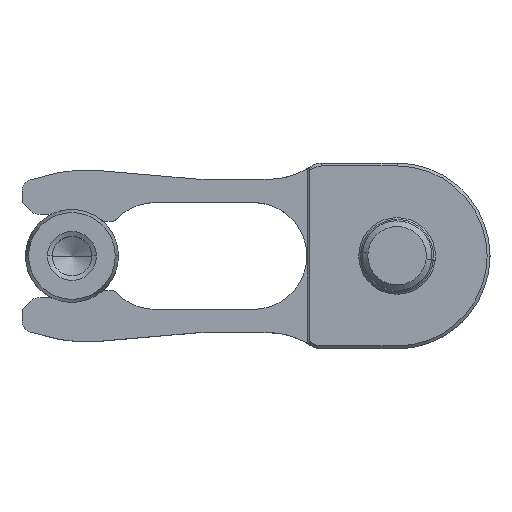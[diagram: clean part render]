
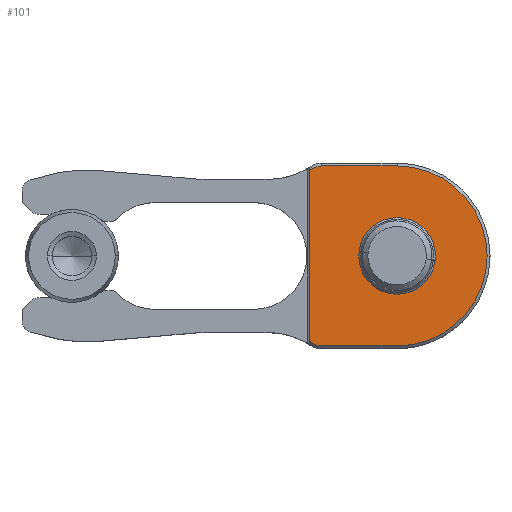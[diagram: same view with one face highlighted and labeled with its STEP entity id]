
A CAD part, top view. The second image highlights one B-rep face of the part: STEP entity #101.
In plain terms, the highlighted planar face has unit normal (0, 0, 1).
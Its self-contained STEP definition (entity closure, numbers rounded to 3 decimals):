
#43 = CARTESIAN_POINT ( 'NONE',  ( 0., -15.5, 5.85 ) ) ;
#60 = AXIS2_PLACEMENT_3D ( 'NONE', #1511, #202, #2271 ) ;
#73 = EDGE_CURVE ( 'NONE', #2920, #2684, #2914, .T. ) ;
#101 = ADVANCED_FACE ( 'NONE', ( #979, #843 ), #548, .T. ) ;
#179 = DIRECTION ( 'NONE',  ( -1., 0., 0. ) ) ;
#187 = CIRCLE ( 'NONE', #3278, 6.6 ) ;
#193 = VECTOR ( 'NONE', #179, 1000. ) ;
#202 = DIRECTION ( 'NONE',  ( 0., 0., -1. ) ) ;
#301 = EDGE_CURVE ( 'NONE', #1133, #2229, #1177, .T. ) ;
#387 = DIRECTION ( 'NONE',  ( 0., 0., -1. ) ) ;
#399 = DIRECTION ( 'NONE',  ( 0., 0., -1. ) ) ;
#427 = DIRECTION ( 'NONE',  ( 1., 0., 0. ) ) ;
#440 = CARTESIAN_POINT ( 'NONE',  ( 6.6, 0., 5.85 ) ) ;
#548 = PLANE ( 'NONE',  #1547 ) ;
#550 = DIRECTION ( 'NONE',  ( 1., 0., 0. ) ) ;
#586 = CARTESIAN_POINT ( 'NONE',  ( 0., -15.5, 5.85 ) ) ;
#645 = ORIENTED_EDGE ( 'NONE', *, *, #1765, .T. ) ;
#654 = CARTESIAN_POINT ( 'NONE',  ( -13., 15.5, 5.85 ) ) ;
#663 = CARTESIAN_POINT ( 'NONE',  ( 0., 0., 5.85 ) ) ;
#737 = CARTESIAN_POINT ( 'NONE',  ( -22.226, -26.5, 5.85 ) ) ;
#744 = EDGE_CURVE ( 'NONE', #3198, #2920, #3032, .T. ) ;
#788 = CARTESIAN_POINT ( 'NONE',  ( -13., 12.7, 5.85 ) ) ;
#843 = FACE_BOUND ( 'NONE', #1704, .T. ) ;
#945 = EDGE_CURVE ( 'NONE', #1168, #3198, #3187, .T. ) ;
#960 = ORIENTED_EDGE ( 'NONE', *, *, #1164, .T. ) ;
#979 = FACE_OUTER_BOUND ( 'NONE', #1762, .T. ) ;
#1045 = CIRCLE ( 'NONE', #1481, 13.8 ) ;
#1111 = DIRECTION ( 'NONE',  ( 1., 0., 0. ) ) ;
#1133 = VERTEX_POINT ( 'NONE', #1909 ) ;
#1144 = CARTESIAN_POINT ( 'NONE',  ( -14.556, -15.028, 5.85 ) ) ;
#1157 = AXIS2_PLACEMENT_3D ( 'NONE', #2446, #399, #1436 ) ;
#1164 = EDGE_CURVE ( 'NONE', #1779, #1804, #1628, .T. ) ;
#1168 = VERTEX_POINT ( 'NONE', #1144 ) ;
#1177 = LINE ( 'NONE', #2587, #1249 ) ;
#1203 = ORIENTED_EDGE ( 'NONE', *, *, #2342, .T. ) ;
#1232 = CARTESIAN_POINT ( 'NONE',  ( -6.6, 0., 5.85 ) ) ;
#1249 = VECTOR ( 'NONE', #2822, 1000. ) ;
#1395 = AXIS2_PLACEMENT_3D ( 'NONE', #3085, #2540, #1554 ) ;
#1436 = DIRECTION ( 'NONE',  ( -1., 0., 0. ) ) ;
#1449 = DIRECTION ( 'NONE',  ( -1., 0., 0. ) ) ;
#1466 = VECTOR ( 'NONE', #1111, 1000. ) ;
#1481 = AXIS2_PLACEMENT_3D ( 'NONE', #737, #2813, #2274 ) ;
#1511 = CARTESIAN_POINT ( 'NONE',  ( -22.226, 26.5, 5.85 ) ) ;
#1547 = AXIS2_PLACEMENT_3D ( 'NONE', #663, #1736, #2975 ) ;
#1554 = DIRECTION ( 'NONE',  ( 1., 0., 0. ) ) ;
#1587 = ORIENTED_EDGE ( 'NONE', *, *, #2046, .T. ) ;
#1628 = CIRCLE ( 'NONE', #1157, 6.6 ) ;
#1704 = EDGE_LOOP ( 'NONE', ( #960, #1203 ) ) ;
#1736 = DIRECTION ( 'NONE',  ( 0., 0., 1. ) ) ;
#1762 = EDGE_LOOP ( 'NONE', ( #3108, #1883, #2408, #2496, #2394, #645, #1587, #3068 ) ) ;
#1765 = EDGE_CURVE ( 'NONE', #2684, #3092, #2709, .T. ) ;
#1779 = VERTEX_POINT ( 'NONE', #1232 ) ;
#1804 = VERTEX_POINT ( 'NONE', #440 ) ;
#1829 = VERTEX_POINT ( 'NONE', #3010 ) ;
#1883 = ORIENTED_EDGE ( 'NONE', *, *, #1926, .T. ) ;
#1909 = CARTESIAN_POINT ( 'NONE',  ( -15.05, -14.713, 5.85 ) ) ;
#1926 = EDGE_CURVE ( 'NONE', #1133, #1168, #1045, .T. ) ;
#1986 = DIRECTION ( 'NONE',  ( 0., 0., 1. ) ) ;
#1998 = AXIS2_PLACEMENT_3D ( 'NONE', #788, #2602, #550 ) ;
#2018 = CARTESIAN_POINT ( 'NONE',  ( 0., 0., 5.85 ) ) ;
#2046 = EDGE_CURVE ( 'NONE', #3092, #1829, #3328, .T. ) ;
#2089 = CARTESIAN_POINT ( 'NONE',  ( 0., 15.5, 5.85 ) ) ;
#2130 = AXIS2_PLACEMENT_3D ( 'NONE', #2018, #1986, #427 ) ;
#2229 = VERTEX_POINT ( 'NONE', #2638 ) ;
#2271 = DIRECTION ( 'NONE',  ( 1., 0., 0. ) ) ;
#2274 = DIRECTION ( 'NONE',  ( 1., 0., 0. ) ) ;
#2342 = EDGE_CURVE ( 'NONE', #1804, #1779, #187, .T. ) ;
#2394 = ORIENTED_EDGE ( 'NONE', *, *, #73, .T. ) ;
#2408 = ORIENTED_EDGE ( 'NONE', *, *, #945, .T. ) ;
#2417 = EDGE_CURVE ( 'NONE', #1829, #2229, #2944, .T. ) ;
#2446 = CARTESIAN_POINT ( 'NONE',  ( 0., 0., 5.85 ) ) ;
#2496 = ORIENTED_EDGE ( 'NONE', *, *, #744, .T. ) ;
#2540 = DIRECTION ( 'NONE',  ( 0., 0., 1. ) ) ;
#2587 = CARTESIAN_POINT ( 'NONE',  ( -15.05, 0., 5.85 ) ) ;
#2602 = DIRECTION ( 'NONE',  ( 0., 0., 1. ) ) ;
#2638 = CARTESIAN_POINT ( 'NONE',  ( -15.05, 14.713, 5.85 ) ) ;
#2684 = VERTEX_POINT ( 'NONE', #2089 ) ;
#2709 = LINE ( 'NONE', #654, #193 ) ;
#2737 = CARTESIAN_POINT ( 'NONE',  ( 0., 0., 5.85 ) ) ;
#2813 = DIRECTION ( 'NONE',  ( 0., 0., -1. ) ) ;
#2822 = DIRECTION ( 'NONE',  ( 0., 1., 0. ) ) ;
#2914 = CIRCLE ( 'NONE', #2130, 15.5 ) ;
#2920 = VERTEX_POINT ( 'NONE', #586 ) ;
#2944 = CIRCLE ( 'NONE', #60, 13.8 ) ;
#2975 = DIRECTION ( 'NONE',  ( 1., 0., 0. ) ) ;
#3010 = CARTESIAN_POINT ( 'NONE',  ( -14.556, 15.028, 5.85 ) ) ;
#3032 = LINE ( 'NONE', #43, #1466 ) ;
#3044 = CARTESIAN_POINT ( 'NONE',  ( -13., -15.5, 5.85 ) ) ;
#3068 = ORIENTED_EDGE ( 'NONE', *, *, #2417, .T. ) ;
#3085 = CARTESIAN_POINT ( 'NONE',  ( -13., -12.7, 5.85 ) ) ;
#3092 = VERTEX_POINT ( 'NONE', #3277 ) ;
#3108 = ORIENTED_EDGE ( 'NONE', *, *, #301, .F. ) ;
#3187 = CIRCLE ( 'NONE', #1395, 2.8 ) ;
#3198 = VERTEX_POINT ( 'NONE', #3044 ) ;
#3277 = CARTESIAN_POINT ( 'NONE',  ( -13., 15.5, 5.85 ) ) ;
#3278 = AXIS2_PLACEMENT_3D ( 'NONE', #2737, #387, #1449 ) ;
#3328 = CIRCLE ( 'NONE', #1998, 2.8 ) ;
